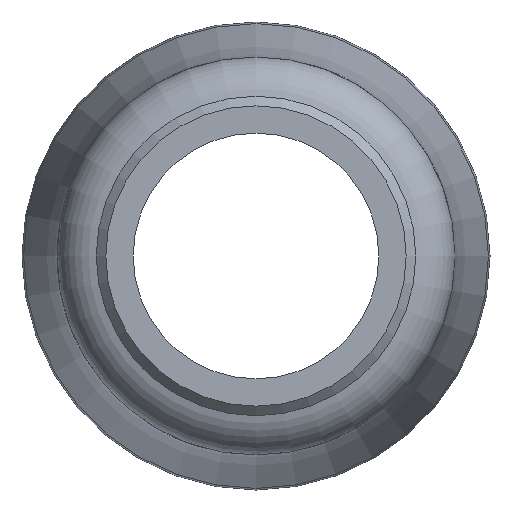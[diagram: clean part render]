
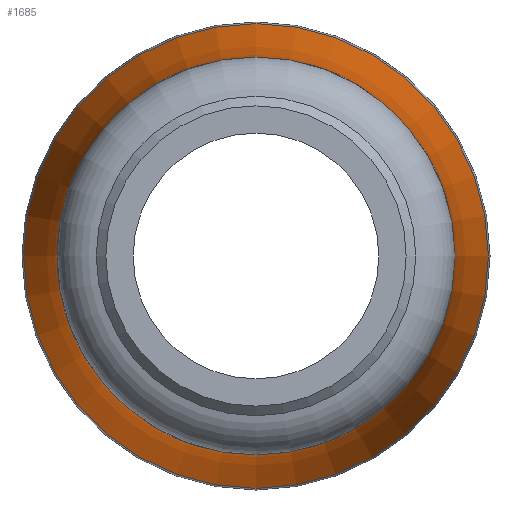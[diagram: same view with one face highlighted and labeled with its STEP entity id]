
A CAD part, left-side view. The second image highlights one B-rep face of the part: STEP entity #1685.
In plain terms, the highlighted toroidal (fillet/blend) face has major radius 143.792 mm and minor radius 119.142 mm.
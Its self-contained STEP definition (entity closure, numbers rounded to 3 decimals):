
#17=TOROIDAL_SURFACE('',#1870,143.792,119.142);
#351=FACE_BOUND('',#565,.T.);
#449=FACE_OUTER_BOUND('',#564,.T.);
#564=EDGE_LOOP('',(#1485));
#565=EDGE_LOOP('',(#1486));
#613=CIRCLE('',#1762,28.798);
#617=CIRCLE('',#1769,24.65);
#714=VERTEX_POINT('',#2769);
#718=VERTEX_POINT('',#2780);
#879=EDGE_CURVE('',#714,#714,#613,.T.);
#883=EDGE_CURVE('',#718,#718,#617,.T.);
#1485=ORIENTED_EDGE('',*,*,#879,.F.);
#1486=ORIENTED_EDGE('',*,*,#883,.T.);
#1685=ADVANCED_FACE('',(#449,#351),#17,.F.);
#1762=AXIS2_PLACEMENT_3D('',#2770,#2037,#2038);
#1769=AXIS2_PLACEMENT_3D('',#2781,#2051,#2052);
#1870=AXIS2_PLACEMENT_3D('',#3717,#2317,#2318);
#2037=DIRECTION('center_axis',(1.,0.,0.));
#2038=DIRECTION('ref_axis',(0.,-1.,0.));
#2051=DIRECTION('center_axis',(1.,0.,0.));
#2052=DIRECTION('ref_axis',(0.,0.,-1.));
#2317=DIRECTION('center_axis',(1.,0.,0.));
#2318=DIRECTION('ref_axis',(0.,0.,-1.));
#2769=CARTESIAN_POINT('',(76.164,28.798,0.));
#2770=CARTESIAN_POINT('Origin',(76.164,0.,0.));
#2780=CARTESIAN_POINT('',(45.,24.65,0.));
#2781=CARTESIAN_POINT('Origin',(45.,0.,0.));
#3717=CARTESIAN_POINT('Origin',(45.,0.,0.));
